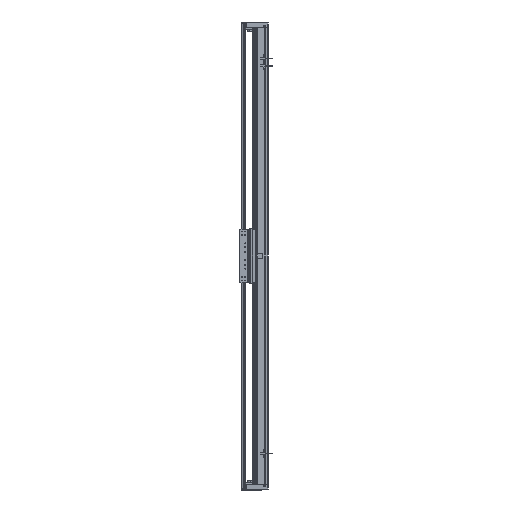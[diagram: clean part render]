
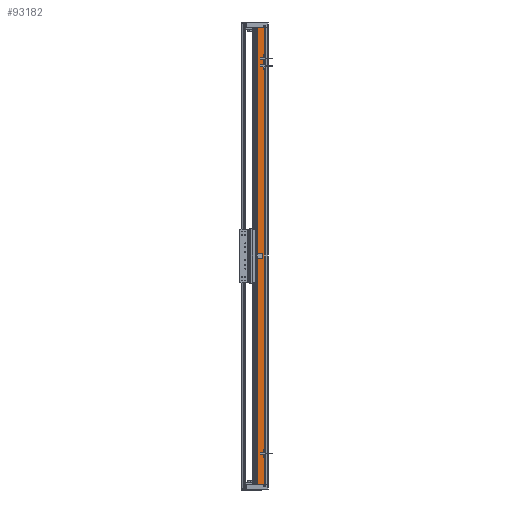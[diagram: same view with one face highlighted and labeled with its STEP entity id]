
A CAD part, left-side view. The second image highlights one B-rep face of the part: STEP entity #93182.
In plain terms, the highlighted planar face has unit normal (-1, 0, 0).
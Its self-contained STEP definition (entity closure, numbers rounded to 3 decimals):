
#752 = CARTESIAN_POINT ( 'NONE',  ( -97.5, 14.45, 810. ) ) ;
#6559 = CARTESIAN_POINT ( 'NONE',  ( -97.5, 36.95, 810. ) ) ;
#13256 = LINE ( 'NONE', #15592, #109458 ) ;
#14330 = AXIS2_PLACEMENT_3D ( 'NONE', #148455, #36986, #76468 ) ;
#15592 = CARTESIAN_POINT ( 'NONE',  ( -97.5, 36.95, 810. ) ) ;
#27446 = FACE_OUTER_BOUND ( 'NONE', #65580, .T. ) ;
#32906 = CARTESIAN_POINT ( 'NONE',  ( -97.5, 36.95, 810. ) ) ;
#36986 = DIRECTION ( 'NONE',  ( 1., 0., 0. ) ) ;
#39797 = VERTEX_POINT ( 'NONE', #43844 ) ;
#40705 = VERTEX_POINT ( 'NONE', #6559 ) ;
#43785 = VECTOR ( 'NONE', #145547, 1000. ) ;
#43844 = CARTESIAN_POINT ( 'NONE',  ( -97.5, 14.45, -810. ) ) ;
#44354 = VECTOR ( 'NONE', #151622, 1000. ) ;
#50923 = CARTESIAN_POINT ( 'NONE',  ( -97.5, 36.95, -810. ) ) ;
#58533 = VECTOR ( 'NONE', #81144, 1000. ) ;
#59957 = CARTESIAN_POINT ( 'NONE',  ( -97.5, 14.45, 810. ) ) ;
#63210 = LINE ( 'NONE', #752, #43785 ) ;
#65219 = EDGE_CURVE ( 'NONE', #140007, #39797, #63210, .T. ) ;
#65580 = EDGE_LOOP ( 'NONE', ( #149632, #91449, #71150, #72533 ) ) ;
#70873 = CARTESIAN_POINT ( 'NONE',  ( -97.5, 36.95, -810. ) ) ;
#71150 = ORIENTED_EDGE ( 'NONE', *, *, #118378, .F. ) ;
#72533 = ORIENTED_EDGE ( 'NONE', *, *, #104232, .T. ) ;
#76468 = DIRECTION ( 'NONE',  ( 0., 1., 0. ) ) ;
#81144 = DIRECTION ( 'NONE',  ( 0., -1., 0. ) ) ;
#83138 = DIRECTION ( 'NONE',  ( 0., 0., -1. ) ) ;
#91449 = ORIENTED_EDGE ( 'NONE', *, *, #65219, .F. ) ;
#93016 = LINE ( 'NONE', #32906, #58533 ) ;
#93182 = ADVANCED_FACE ( 'NONE', ( #27446 ), #145359, .F. ) ;
#104232 = EDGE_CURVE ( 'NONE', #40705, #147488, #13256, .T. ) ;
#109458 = VECTOR ( 'NONE', #83138, 1000. ) ;
#118378 = EDGE_CURVE ( 'NONE', #40705, #140007, #93016, .T. ) ;
#134302 = EDGE_CURVE ( 'NONE', #147488, #39797, #153964, .T. ) ;
#140007 = VERTEX_POINT ( 'NONE', #59957 ) ;
#145359 = PLANE ( 'NONE',  #14330 ) ;
#145547 = DIRECTION ( 'NONE',  ( 0., 0., -1. ) ) ;
#147488 = VERTEX_POINT ( 'NONE', #50923 ) ;
#148455 = CARTESIAN_POINT ( 'NONE',  ( -97.5, 36.95, 810. ) ) ;
#149632 = ORIENTED_EDGE ( 'NONE', *, *, #134302, .T. ) ;
#151622 = DIRECTION ( 'NONE',  ( 0., -1., 0. ) ) ;
#153964 = LINE ( 'NONE', #70873, #44354 ) ;
